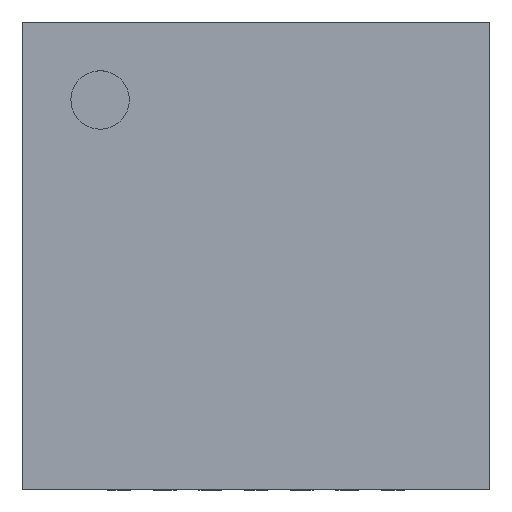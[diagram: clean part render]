
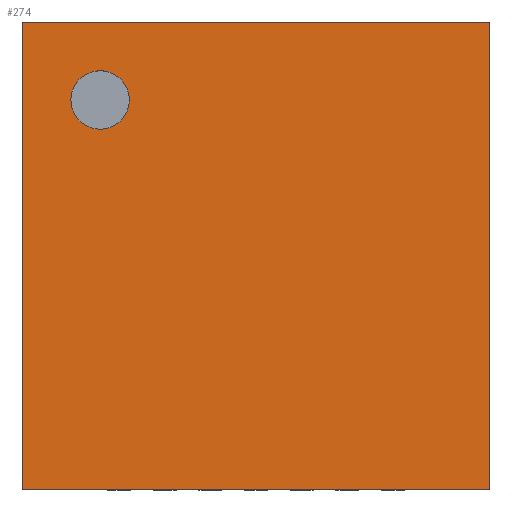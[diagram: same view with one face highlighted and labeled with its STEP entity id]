
A CAD part, top view. The second image highlights one B-rep face of the part: STEP entity #274.
In plain terms, the highlighted planar face has unit normal (0, 0, 1).
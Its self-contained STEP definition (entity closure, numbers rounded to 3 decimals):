
#210 = VERTEX_POINT('',#211);
#211 = CARTESIAN_POINT('',(0.,0.,0.8));
#226 = VERTEX_POINT('',#227);
#227 = CARTESIAN_POINT('',(0.,4.1,0.8));
#233 = EDGE_CURVE('',#210,#226,#234,.T.);
#234 = LINE('',#235,#236);
#235 = CARTESIAN_POINT('',(0.,0.,0.8));
#236 = VECTOR('',#237,1.);
#237 = DIRECTION('',(0.,1.,0.));
#256 = EDGE_CURVE('',#210,#257,#259,.T.);
#257 = VERTEX_POINT('',#258);
#258 = CARTESIAN_POINT('',(4.1,0.,0.8));
#259 = LINE('',#260,#261);
#260 = CARTESIAN_POINT('',(0.,0.,0.8));
#261 = VECTOR('',#262,1.);
#262 = DIRECTION('',(1.,0.,0.));
#274 = ADVANCED_FACE('',(#275,#293),#304,.T.);
#275 = FACE_BOUND('',#276,.T.);
#276 = EDGE_LOOP('',(#277,#278,#279,#287));
#277 = ORIENTED_EDGE('',*,*,#233,.F.);
#278 = ORIENTED_EDGE('',*,*,#256,.T.);
#279 = ORIENTED_EDGE('',*,*,#280,.T.);
#280 = EDGE_CURVE('',#257,#281,#283,.T.);
#281 = VERTEX_POINT('',#282);
#282 = CARTESIAN_POINT('',(4.1,4.1,0.8));
#283 = LINE('',#284,#285);
#284 = CARTESIAN_POINT('',(4.1,0.,0.8));
#285 = VECTOR('',#286,1.);
#286 = DIRECTION('',(0.,1.,0.));
#287 = ORIENTED_EDGE('',*,*,#288,.F.);
#288 = EDGE_CURVE('',#226,#281,#289,.T.);
#289 = LINE('',#290,#291);
#290 = CARTESIAN_POINT('',(0.,4.1,0.8));
#291 = VECTOR('',#292,1.);
#292 = DIRECTION('',(1.,0.,0.));
#293 = FACE_BOUND('',#294,.T.);
#294 = EDGE_LOOP('',(#295));
#295 = ORIENTED_EDGE('',*,*,#296,.F.);
#296 = EDGE_CURVE('',#297,#297,#299,.T.);
#297 = VERTEX_POINT('',#298);
#298 = CARTESIAN_POINT('',(0.94,3.417,0.8));
#299 = CIRCLE('',#300,0.256);
#300 = AXIS2_PLACEMENT_3D('',#301,#302,#303);
#301 = CARTESIAN_POINT('',(0.683,3.417,0.8));
#302 = DIRECTION('',(0.,0.,1.));
#303 = DIRECTION('',(1.,0.,0.));
#304 = PLANE('',#305);
#305 = AXIS2_PLACEMENT_3D('',#306,#307,#308);
#306 = CARTESIAN_POINT('',(0.,0.,0.8));
#307 = DIRECTION('',(0.,0.,1.));
#308 = DIRECTION('',(1.,0.,0.));
